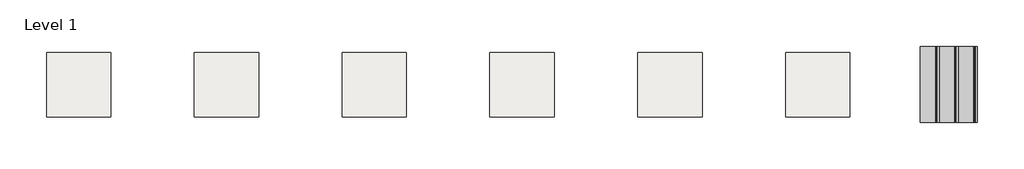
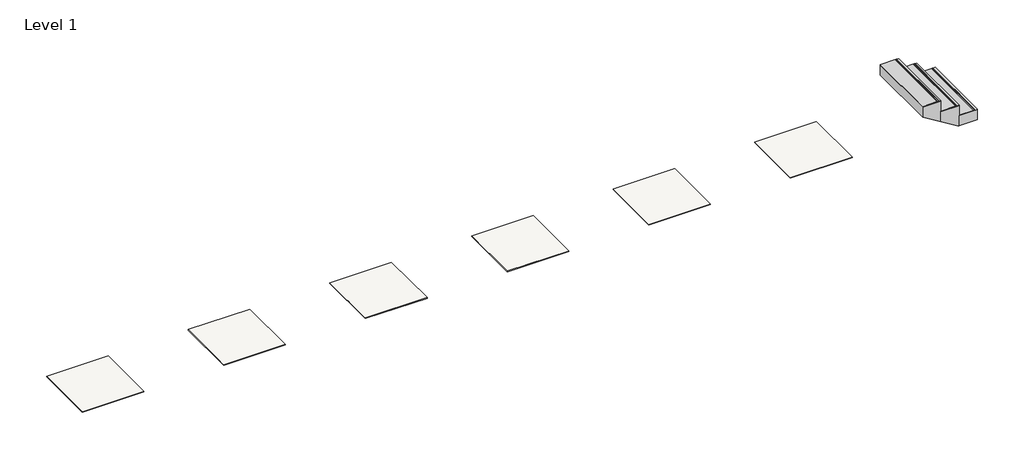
# One storey: 6 coverings, 1 stair flight.
"""IFC4 building model written with IfcOpenShell, lengths in millimetres."""

from ifc_helpers import new_model, si_unit, frame, origin, place, context, project, spatial, polyline, outline, extrude, faceted_brep, element, save

model = new_model("IFC4")

# Units and contexts
model_context = context("Model", 3, world=origin())
ifc_project = project(units=[si_unit("LENGTHUNIT", "METRE", prefix="MILLI")], contexts=[model_context])

# Site, building, storey
site = spatial("IfcSite", under=ifc_project)
building = spatial("IfcBuilding", under=site)
storey = spatial("IfcBuildingStorey", under=building, Name="Level 1", Elevation=0.0)

# Coverings
placement = place(None, origin())
element("IfcCovering", 1, ObjectType="REVIGRÉS-NORDIK-DG-30x120-MATTRECT-ALMOND", at=placement, inside=storey, context=model_context, shape_type="SweptSolid", body=[
    extrude(outline(polyline([(77840.9341098, 18731.1346775), (76840.9341098, 18731.1346775), (76840.9341098, 19731.1346775), (77840.9341098, 19731.1346775), (77840.9341098, 18731.1346775)])), frame((0.0, 0.0, -9.8), z_axis=(0.0, 0.0, 1.0), x_axis=(1.0, 0.0, 0.0)), (0.0, 0.0, 1.0), 9.8),
])
element("IfcCovering", 2, ObjectType="REVIGRÉS-NORDIK-DG-30x120-MATTRECT-CHERRY", at=placement, inside=storey, context=model_context, shape_type="SweptSolid", body=[
    extrude(outline(polyline([(80140.9341098, 18731.1346775), (79140.9341098, 18731.1346775), (79140.9341098, 19731.1346775), (80140.9341098, 19731.1346775), (80140.9341098, 18731.1346775)])), frame((0.0, 0.0, -9.8), z_axis=(0.0, 0.0, 1.0), x_axis=(1.0, 0.0, 0.0)), (0.0, 0.0, 1.0), 9.8),
])
element("IfcCovering", 3, ObjectType="REVIGRÉS-NORDIK-DG-30x120-MATTRECT-HONEY", at=placement, inside=storey, context=model_context, shape_type="SweptSolid", body=[
    extrude(outline(polyline([(82440.9341098, 18731.1346775), (81440.9341098, 18731.1346775), (81440.9341098, 19731.1346775), (82440.9341098, 19731.1346775), (82440.9341098, 18731.1346775)])), frame((0.0, 0.0, -9.8), z_axis=(0.0, 0.0, 1.0), x_axis=(1.0, 0.0, 0.0)), (0.0, 0.0, 1.0), 9.8),
])
element("IfcCovering", 4, ObjectType="REVIGRÉS-NORDIK-DG-30x120-MATTRECT-TAUPE", at=placement, inside=storey, context=model_context, shape_type="SweptSolid", body=[
    extrude(outline(polyline([(84740.9341098, 18731.1346775), (83740.9341098, 18731.1346775), (83740.9341098, 19731.1346775), (84740.9341098, 19731.1346775), (84740.9341098, 18731.1346775)])), frame((0.0, 0.0, -9.8), z_axis=(0.0, 0.0, 1.0), x_axis=(1.0, 0.0, 0.0)), (0.0, 0.0, 1.0), 9.8),
])
element("IfcCovering", 5, ObjectType="REVIGRÉS-NORDIK-DG-30x120-MATTRECT-WALNUT", at=placement, inside=storey, context=model_context, shape_type="SweptSolid", body=[
    extrude(outline(polyline([(87040.9341098, 18731.1346775), (86040.9341098, 18731.1346775), (86040.9341098, 19731.1346775), (87040.9341098, 19731.1346775), (87040.9341098, 18731.1346775)])), frame((0.0, 0.0, -9.8), z_axis=(0.0, 0.0, 1.0), x_axis=(1.0, 0.0, 0.0)), (0.0, 0.0, 1.0), 9.8),
])
element("IfcCovering", 6, ObjectType="REVIGRÉS-NORDIK-DG-30x120-MATTRECT-WHITE", at=placement, inside=storey, context=model_context, shape_type="SweptSolid", body=[
    extrude(outline(polyline([(89340.9341098, 18731.1346775), (88340.9341098, 18731.1346775), (88340.9341098, 19731.1346775), (89340.9341098, 19731.1346775), (89340.9341098, 18731.1346775)])), frame((0.0, 0.0, -9.8), z_axis=(0.0, 0.0, 1.0), x_axis=(1.0, 0.0, 0.0)), (0.0, 0.0, 1.0), 9.8),
])

# Stair flight
element("IfcStairFlight", 7, ObjectType="REVIGRÉS-NORDIK-DG-30X120", at=placement, inside=storey, context=model_context, shape_type="SolidModel", body=[
    faceted_brep([(91028.9341098, 18642.6201323, 170.7941176), (91325.9341098, 18642.6201323, 170.7941176), (91325.9341098, 19830.6201323, 170.7941176), (91028.9341098, 19830.6201323, 170.7941176), (91028.9341098, 18642.6201323, 0.0), (91325.9341098, 18642.6201323, 0.0), (91325.9341098, 19830.6201323, 0.0), (91028.9341098, 19830.6201323, 0.0), (90731.9341098, 18642.6201323, 350.0882353), (91028.9341098, 18642.6201323, 350.0882353), (91028.9341098, 19830.6201323, 350.0882353), (90731.9341098, 19830.6201323, 350.0882353), (90731.9341098, 18642.6201323, 174.8747353), (91021.6134203, 18642.6201323, 0.0), (91021.6134203, 19830.6201323, 0.0), (90731.9341098, 19830.6201323, 174.8747353), (90434.9341098, 18642.6201323, 529.3823529), (90731.9341098, 18642.6201323, 529.3823529), (90731.9341098, 19830.6201323, 529.3823529), (90434.9341098, 19830.6201323, 529.3823529), (90434.9341098, 18642.6201323, 354.1688529), (90434.9341098, 19830.6201323, 354.1688529)], [[[0, 1, 2, 3]], [[1, 0, 4, 5]], [[2, 1, 5, 6]], [[3, 2, 6, 7]], [[8, 9, 10, 11]], [[4, 0, 9, 8, 12, 13]], [[0, 3, 10, 9]], [[3, 7, 14, 15, 11, 10]], [[16, 17, 18, 19]], [[17, 16, 20, 12, 8]], [[8, 11, 18, 17]], [[19, 18, 11, 15, 21]], [[16, 19, 21, 20]], [[5, 4, 13, 14, 7, 6]], [[14, 13, 12, 20, 21, 15]]]),
    extrude(outline(polyline([(179.2941176, 91295.9341098), (178.2941176, 91295.9341098), (178.2941176, 91290.9341098), (179.2941176, 91290.9341098), (179.2941176, 91280.9341098), (178.2941176, 91280.9341098), (178.2941176, 91275.9341098), (179.2941176, 91275.9341098), (179.2941176, 91265.9341098), (178.2941176, 91265.9341098), (178.2941176, 91260.9341098), (179.2941176, 91260.9341098), (179.2941176, 91030.9341098), (169.4941176, 91030.9341098), (169.4941176, 91325.9341098), (179.2941176, 91325.9341098), (179.2941176, 91295.9341098)])), frame((0.0, 18642.6201323, 0.0), z_axis=(0.0, 1.0, 0.0), x_axis=(0.0, 0.0, 1.0)), (0.0, 0.0, 1.0), 1188.0),
    extrude(outline(polyline([(358.5882353, 90998.9341098), (357.5882353, 90998.9341098), (357.5882353, 90993.9341098), (358.5882353, 90993.9341098), (358.5882353, 90983.9341098), (357.5882353, 90983.9341098), (357.5882353, 90978.9341098), (358.5882353, 90978.9341098), (358.5882353, 90968.9341098), (357.5882353, 90968.9341098), (357.5882353, 90963.9341098), (358.5882353, 90963.9341098), (358.5882353, 90733.9341098), (348.7882353, 90733.9341098), (348.7882353, 91028.9341098), (358.5882353, 91028.9341098), (358.5882353, 90998.9341098)])), frame((0.0, 18642.6201323, 0.0), z_axis=(0.0, 1.0, 0.0), x_axis=(0.0, 0.0, 1.0)), (0.0, 0.0, 1.0), 1188.0),
    extrude(outline(polyline([(537.8823529, 90701.9341098), (536.8823529, 90701.9341098), (536.8823529, 90696.9341098), (537.8823529, 90696.9341098), (537.8823529, 90686.9341098), (536.8823529, 90686.9341098), (536.8823529, 90681.9341098), (537.8823529, 90681.9341098), (537.8823529, 90671.9341098), (536.8823529, 90671.9341098), (536.8823529, 90666.9341098), (537.8823529, 90666.9341098), (537.8823529, 90436.9341098), (528.0823529, 90436.9341098), (528.0823529, 90731.9341098), (537.8823529, 90731.9341098), (537.8823529, 90701.9341098)])), frame((0.0, 18642.6201323, 0.0), z_axis=(0.0, 1.0, 0.0), x_axis=(0.0, 0.0, 1.0)), (0.0, 0.0, 1.0), 1188.0),
])

save(model, "model.ifc")
